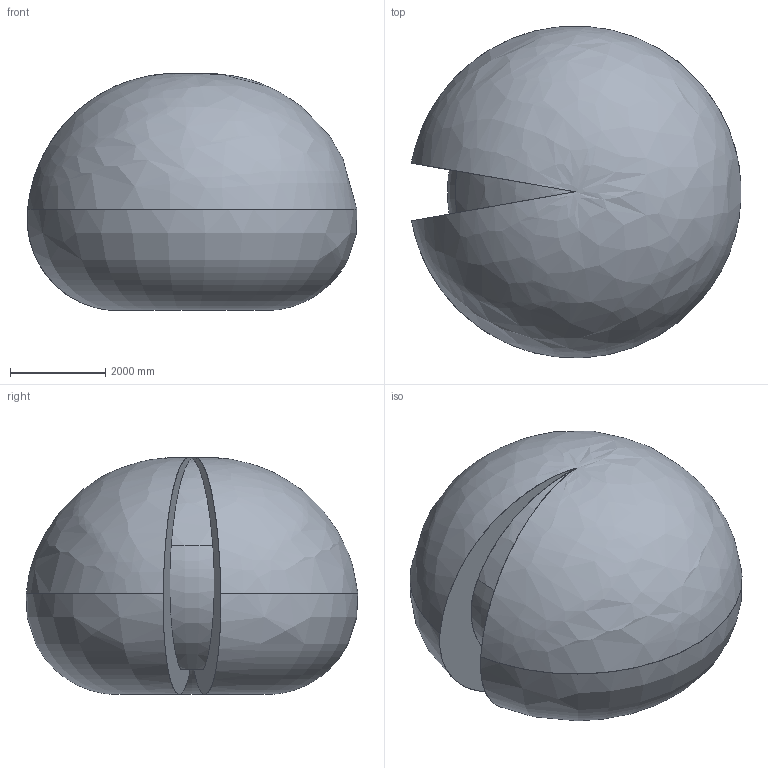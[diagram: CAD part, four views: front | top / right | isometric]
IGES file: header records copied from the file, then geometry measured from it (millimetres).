
Start section: SolidWorks IGES file using analytic representation for surfaces
Global section: file name: C:\Users\SEAMSTO1\OneDrive - ABB\PT\Macro\IGES\IRB6760_150kg-350_OC_00_IGES_J\IRB6760_All-350_OC_00_Working-envelope.igs; native system: SolidWorks 2024; preprocessor: SolidWorks 2024; author: SEAMSTO1; date: 250930.150645; units: millimetre
Bounding box: 6937.15 x 6982.26 x 4983.33 mm (x, y, z)
Surface area: 169104011.1 mm2 (no closed solid volume)
Topology: 0 solids, 0 shells, 16 faces, 460 edges, 456 vertices
Faces by surface type: bspline 16
